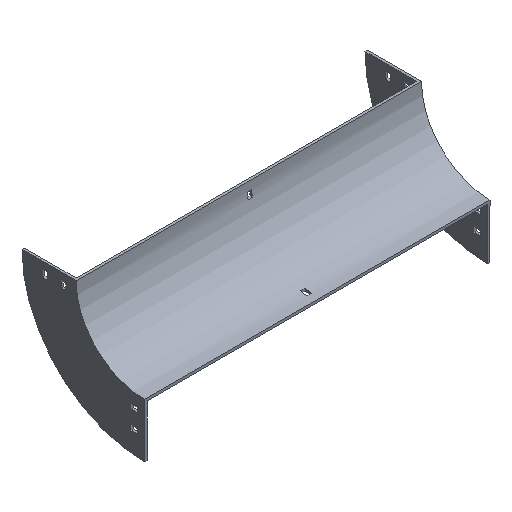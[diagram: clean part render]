
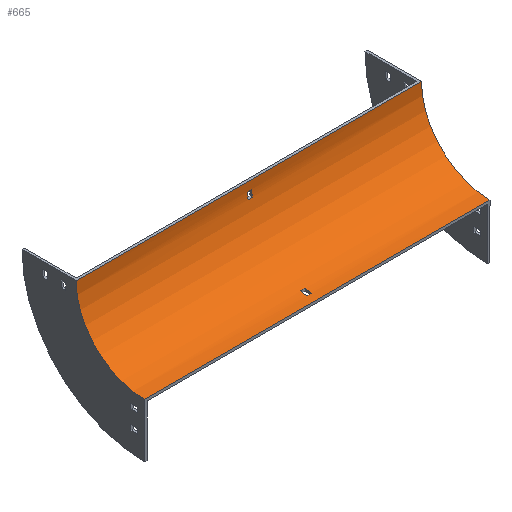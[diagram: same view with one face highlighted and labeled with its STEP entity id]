
A CAD part, isometric view. The second image highlights one B-rep face of the part: STEP entity #665.
In plain terms, the highlighted cylindrical face has radius 100 mm (diameter 200 mm), a partial arc.
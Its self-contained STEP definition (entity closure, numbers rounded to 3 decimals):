
#3 = AXIS2_PLACEMENT_3D ( 'NONE', #971, #1337, #952 ) ;
#29 = EDGE_CURVE ( 'NONE', #206, #944, #931, .T. ) ;
#38 = AXIS2_PLACEMENT_3D ( 'NONE', #552, #534, #1327 ) ;
#72 = ORIENTED_EDGE ( 'NONE', *, *, #1193, .F. ) ;
#77 = DIRECTION ( 'NONE',  ( -1., 0., 0. ) ) ;
#78 = VECTOR ( 'NONE', #476, 1000. ) ;
#88 = CIRCLE ( 'NONE', #357, 100. ) ;
#116 = CARTESIAN_POINT ( 'NONE',  ( 3.25, -100., 0. ) ) ;
#124 = DIRECTION ( 'NONE',  ( 1., 0., 0. ) ) ;
#150 = EDGE_CURVE ( 'NONE', #163, #259, #1262, .T. ) ;
#155 = CARTESIAN_POINT ( 'NONE',  ( -252., -100., -100. ) ) ;
#156 = CARTESIAN_POINT ( 'NONE',  ( 3.25, -88., -99.277 ) ) ;
#160 = EDGE_LOOP ( 'NONE', ( #1175, #593, #72, #372 ) ) ;
#163 = VERTEX_POINT ( 'NONE', #986 ) ;
#169 = ORIENTED_EDGE ( 'NONE', *, *, #1673, .F. ) ;
#191 = FACE_OUTER_BOUND ( 'NONE', #654, .T. ) ;
#203 = DIRECTION ( 'NONE',  ( 0., 0., 1. ) ) ;
#206 = VERTEX_POINT ( 'NONE', #1601 ) ;
#247 = CARTESIAN_POINT ( 'NONE',  ( 252., -100., -100. ) ) ;
#259 = VERTEX_POINT ( 'NONE', #156 ) ;
#267 = ORIENTED_EDGE ( 'NONE', *, *, #29, .T. ) ;
#308 = VECTOR ( 'NONE', #1630, 1000. ) ;
#351 = EDGE_CURVE ( 'NONE', #815, #1139, #88, .T. ) ;
#357 = AXIS2_PLACEMENT_3D ( 'NONE', #1484, #968, #447 ) ;
#361 = AXIS2_PLACEMENT_3D ( 'NONE', #1506, #1608, #1497 ) ;
#364 = EDGE_CURVE ( 'NONE', #815, #206, #1351, .T. ) ;
#367 = DIRECTION ( 'NONE',  ( -1., 0., 0. ) ) ;
#372 = ORIENTED_EDGE ( 'NONE', *, *, #150, .F. ) ;
#394 = DIRECTION ( 'NONE',  ( 1., 0., 0. ) ) ;
#419 = LINE ( 'NONE', #709, #308 ) ;
#435 = CARTESIAN_POINT ( 'NONE',  ( -3.25, -79., -97.77 ) ) ;
#447 = DIRECTION ( 'NONE',  ( 0., 0., 1. ) ) ;
#454 = DIRECTION ( 'NONE',  ( 1., 0., 0. ) ) ;
#462 = AXIS2_PLACEMENT_3D ( 'NONE', #955, #454, #1215 ) ;
#467 = DIRECTION ( 'NONE',  ( -1., 0., 0. ) ) ;
#476 = DIRECTION ( 'NONE',  ( -1., 0., 0. ) ) ;
#488 = EDGE_CURVE ( 'NONE', #615, #1527, #509, .T. ) ;
#495 = EDGE_LOOP ( 'NONE', ( #1196, #1031, #1292, #504 ) ) ;
#504 = ORIENTED_EDGE ( 'NONE', *, *, #1126, .T. ) ;
#505 = DIRECTION ( 'NONE',  ( 0., -1., 0. ) ) ;
#509 = LINE ( 'NONE', #774, #558 ) ;
#514 = VERTEX_POINT ( 'NONE', #1087 ) ;
#521 = EDGE_CURVE ( 'NONE', #1527, #163, #669, .T. ) ;
#534 = DIRECTION ( 'NONE',  ( -1., 0., 0. ) ) ;
#552 = CARTESIAN_POINT ( 'NONE',  ( -3.25, -100., 0. ) ) ;
#558 = VECTOR ( 'NONE', #367, 1000. ) ;
#586 = VECTOR ( 'NONE', #1619, 1000. ) ;
#593 = ORIENTED_EDGE ( 'NONE', *, *, #488, .F. ) ;
#594 = CARTESIAN_POINT ( 'NONE',  ( 3.25, -2.23, -21. ) ) ;
#615 = VERTEX_POINT ( 'NONE', #1447 ) ;
#638 = EDGE_CURVE ( 'NONE', #1063, #1471, #977, .T. ) ;
#654 = EDGE_LOOP ( 'NONE', ( #267, #169, #1207, #905 ) ) ;
#665 = ADVANCED_FACE ( 'NONE', ( #191, #1638, #1353 ), #851, .F. ) ;
#669 = CIRCLE ( 'NONE', #38, 100. ) ;
#709 = CARTESIAN_POINT ( 'NONE',  ( 252., -0.723, -12. ) ) ;
#765 = LINE ( 'NONE', #247, #78 ) ;
#774 = CARTESIAN_POINT ( 'NONE',  ( 252., -79., -97.77 ) ) ;
#815 = VERTEX_POINT ( 'NONE', #1388 ) ;
#835 = CARTESIAN_POINT ( 'NONE',  ( 252., 0., 0. ) ) ;
#851 = CYLINDRICAL_SURFACE ( 'NONE', #1674, 100. ) ;
#862 = CIRCLE ( 'NONE', #462, 100. ) ;
#870 = CARTESIAN_POINT ( 'NONE',  ( -3.25, -0.723, -12. ) ) ;
#872 = VECTOR ( 'NONE', #394, 1000. ) ;
#905 = ORIENTED_EDGE ( 'NONE', *, *, #364, .T. ) ;
#911 = CARTESIAN_POINT ( 'NONE',  ( 252., -88., -99.277 ) ) ;
#931 = CIRCLE ( 'NONE', #3, 100. ) ;
#944 = VERTEX_POINT ( 'NONE', #155 ) ;
#952 = DIRECTION ( 'NONE',  ( 0., 0., 1. ) ) ;
#955 = CARTESIAN_POINT ( 'NONE',  ( -3.25, -100., 0. ) ) ;
#968 = DIRECTION ( 'NONE',  ( -1., 0., 0. ) ) ;
#971 = CARTESIAN_POINT ( 'NONE',  ( -252., -100., 0. ) ) ;
#977 = LINE ( 'NONE', #1498, #1153 ) ;
#986 = CARTESIAN_POINT ( 'NONE',  ( -3.25, -88., -99.277 ) ) ;
#1024 = EDGE_CURVE ( 'NONE', #1293, #514, #419, .T. ) ;
#1031 = ORIENTED_EDGE ( 'NONE', *, *, #1529, .T. ) ;
#1063 = VERTEX_POINT ( 'NONE', #594 ) ;
#1087 = CARTESIAN_POINT ( 'NONE',  ( 3.25, -0.723, -12. ) ) ;
#1126 = EDGE_CURVE ( 'NONE', #514, #1063, #1625, .T. ) ;
#1139 = VERTEX_POINT ( 'NONE', #1350 ) ;
#1153 = VECTOR ( 'NONE', #467, 1000. ) ;
#1175 = ORIENTED_EDGE ( 'NONE', *, *, #521, .F. ) ;
#1193 = EDGE_CURVE ( 'NONE', #259, #615, #1639, .T. ) ;
#1196 = ORIENTED_EDGE ( 'NONE', *, *, #638, .T. ) ;
#1207 = ORIENTED_EDGE ( 'NONE', *, *, #351, .F. ) ;
#1215 = DIRECTION ( 'NONE',  ( 0., 0., 1. ) ) ;
#1227 = CARTESIAN_POINT ( 'NONE',  ( 252., -100., 0. ) ) ;
#1243 = CARTESIAN_POINT ( 'NONE',  ( -3.25, -2.23, -21. ) ) ;
#1262 = LINE ( 'NONE', #911, #872 ) ;
#1292 = ORIENTED_EDGE ( 'NONE', *, *, #1024, .T. ) ;
#1293 = VERTEX_POINT ( 'NONE', #870 ) ;
#1327 = DIRECTION ( 'NONE',  ( 0., 1., 0. ) ) ;
#1337 = DIRECTION ( 'NONE',  ( -1., 0., 0. ) ) ;
#1350 = CARTESIAN_POINT ( 'NONE',  ( 252., -100., -100. ) ) ;
#1351 = LINE ( 'NONE', #835, #586 ) ;
#1353 = FACE_BOUND ( 'NONE', #160, .T. ) ;
#1388 = CARTESIAN_POINT ( 'NONE',  ( 252., 0., 0. ) ) ;
#1447 = CARTESIAN_POINT ( 'NONE',  ( 3.25, -79., -97.77 ) ) ;
#1471 = VERTEX_POINT ( 'NONE', #1243 ) ;
#1484 = CARTESIAN_POINT ( 'NONE',  ( 252., -100., 0. ) ) ;
#1497 = DIRECTION ( 'NONE',  ( 0., 0., -1. ) ) ;
#1498 = CARTESIAN_POINT ( 'NONE',  ( 252., -2.23, -21. ) ) ;
#1506 = CARTESIAN_POINT ( 'NONE',  ( 3.25, -100., 0. ) ) ;
#1527 = VERTEX_POINT ( 'NONE', #435 ) ;
#1529 = EDGE_CURVE ( 'NONE', #1471, #1293, #862, .T. ) ;
#1547 = AXIS2_PLACEMENT_3D ( 'NONE', #116, #124, #505 ) ;
#1601 = CARTESIAN_POINT ( 'NONE',  ( -252., 0., 0. ) ) ;
#1608 = DIRECTION ( 'NONE',  ( -1., 0., 0. ) ) ;
#1619 = DIRECTION ( 'NONE',  ( -1., 0., 0. ) ) ;
#1625 = CIRCLE ( 'NONE', #361, 100. ) ;
#1630 = DIRECTION ( 'NONE',  ( 1., 0., 0. ) ) ;
#1638 = FACE_BOUND ( 'NONE', #495, .T. ) ;
#1639 = CIRCLE ( 'NONE', #1547, 100. ) ;
#1673 = EDGE_CURVE ( 'NONE', #1139, #944, #765, .T. ) ;
#1674 = AXIS2_PLACEMENT_3D ( 'NONE', #1227, #77, #203 ) ;
